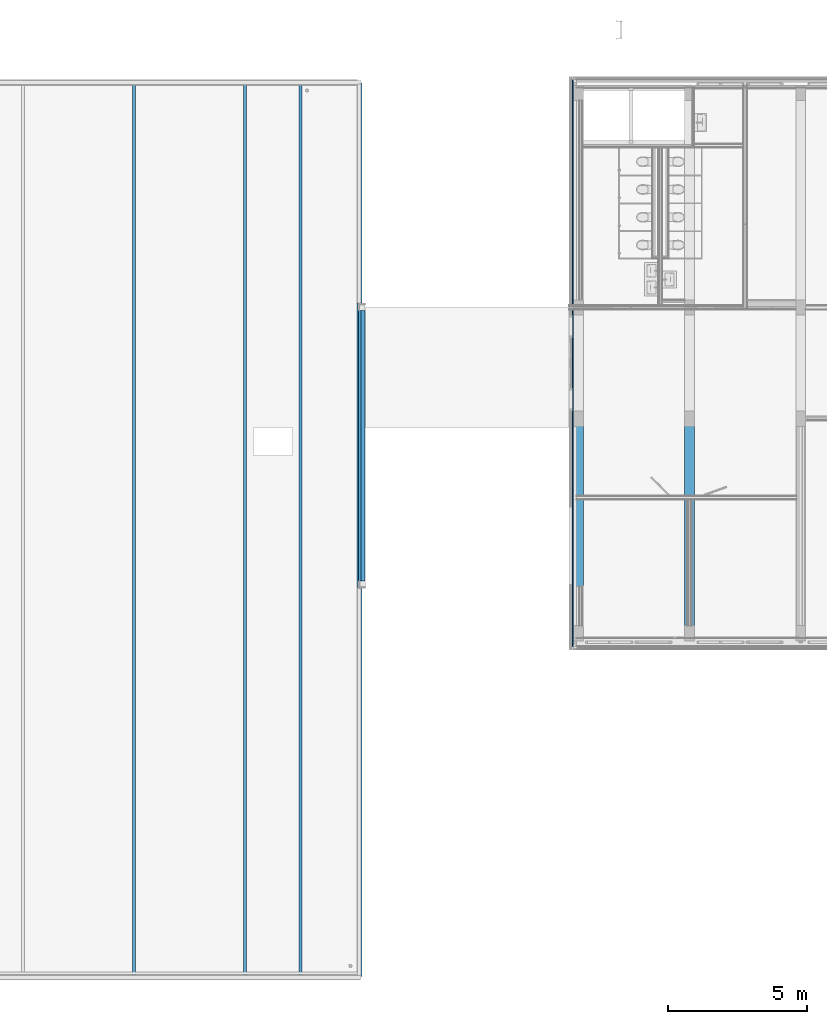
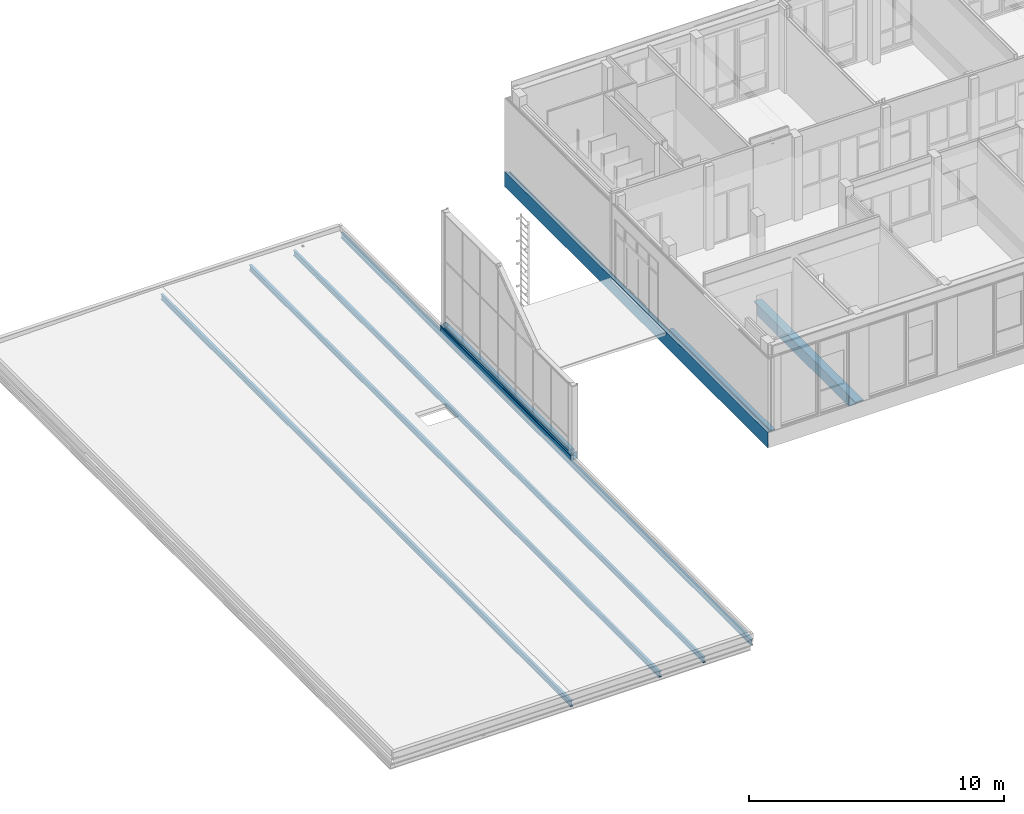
# One storey, part 7 of 54: 10 beams.
"""IFC2X3 building model written with IfcOpenShell, lengths in millimetres."""

from ifc_helpers import new_model, entity, si_unit, converted_unit, derived_unit, money_unit, direction, frame, origin_with_axes, place, context, subcontext, project, spatial, faceted_brep, material, type_object, element, save


model = new_model("IFC2X3")

# Units and contexts
model_context = context("Model", 3, precision=0.01, world=origin_with_axes(), true_north=direction((0.0, 1.0)))
body_context = subcontext(model_context, "Body", "Model", "MODEL_VIEW")
ifc_project = project(units=[si_unit("LENGTHUNIT", "METRE", prefix="MILLI"), si_unit("AREAUNIT", "SQUARE_METRE"), si_unit("VOLUMEUNIT", "CUBIC_METRE"), converted_unit("PLANEANGLEUNIT", "DEGREE", entity("IfcPlaneAngleMeasure", 0.0174532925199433), si_unit("PLANEANGLEUNIT", "RADIAN"), dimensions=[0, 0, 0, 0, 0, 0, 0]), money_unit("EUR"), converted_unit("TIMEUNIT", "Year", entity("IfcTimeMeasure", 31557600.0), si_unit("TIMEUNIT", "SECOND"), dimensions=[0, 0, 1, 0, 0, 0, 0]), si_unit("MASSUNIT", "GRAM", prefix="KILO"), si_unit("THERMODYNAMICTEMPERATUREUNIT", "DEGREE_CELSIUS"), si_unit("LUMINOUSINTENSITYUNIT", "LUMEN"), si_unit("ENERGYUNIT", "JOULE", prefix="MEGA"), derived_unit("THERMALCONDUCTANCEUNIT", [(si_unit("POWERUNIT", "WATT"), 1), (si_unit("LENGTHUNIT", "METRE"), -1), (si_unit("THERMODYNAMICTEMPERATUREUNIT", "KELVIN"), -1)]), derived_unit("SPECIFICHEATCAPACITYUNIT", [(si_unit("ENERGYUNIT", "JOULE"), 1), (si_unit("MASSUNIT", "GRAM", prefix="KILO"), -1), (si_unit("THERMODYNAMICTEMPERATUREUNIT", "KELVIN"), -1)]), derived_unit("MASSDENSITYUNIT", [(si_unit("MASSUNIT", "GRAM", prefix="KILO"), 1), (si_unit("VOLUMEUNIT", "CUBIC_METRE"), -1)])], contexts=[model_context])

# Site, building, storey
site_placement = place(None, origin_with_axes())
site = spatial("IfcSite", under=ifc_project, at=site_placement, Name="<site naam>", CompositionType="ELEMENT")
building_placement = place(site_placement, origin_with_axes())
building = spatial("IfcBuilding", under=site, at=building_placement, Name="<Naam gebouw>", CompositionType="ELEMENT")
storey_placement = place(building_placement, frame((0.0, 0.0, 8500.0), z_axis=(0.0, 0.0, 1.0), x_axis=(1.0, 0.0, 0.0)))
storey = spatial("IfcBuildingStorey", under=building, at=storey_placement, Name="02 2e verdieping", CompositionType="ELEMENT", Elevation=8500.0)

# Beams
ifc_material_1 = material(Name="beton_gewapend C")
beam_type_1 = type_object("IfcBeamType", Name="beton_gewapend C 350 x 650", PredefinedType="BEAM")
beam_1_placement = place(storey_placement, frame((16000.00000000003, 7994.453850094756, -30.00000000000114), z_axis=(0.0, 0.0, 1.0), x_axis=(-1.0, 0.0, 0.0)))
element("IfcBeam", 1, at=beam_1_placement, inside=storey, type_object=beam_type_1, material=ifc_material_1, Name="28_Balk_beton_gewapend", ObjectType="BEAM", context=body_context, shape_type="Brep", body=[
    faceted_brep([(-174.9999999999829, 7994.453850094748, -169.9999999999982), (-174.9999999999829, 7444.453850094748, -169.9999999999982), (-174.9999999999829, 7444.453850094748, -650.0000000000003), (-174.9999999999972, 269.4538500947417, -650.0000000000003), (-174.9999999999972, 269.4538500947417, -169.9999999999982), (-174.9999999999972, 0.0, -169.9999999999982), (-175.0000000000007, 0.0, -119.9999999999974), (-175.0000000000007, 7994.453850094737, -119.9999999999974), (175.0000000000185, 7444.453850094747, -169.9999999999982), (175.0000000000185, 7994.453850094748, -169.9999999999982), (175.0000000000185, 7444.453850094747, -650.0000000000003), (175.0000000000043, 269.4538500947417, -650.0000000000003), (175.0000000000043, 269.4538500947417, -169.9999999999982), (175.0000000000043, 0.0, -169.9999999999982), (175.0000000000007, 0.0, -119.9999999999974), (174.9999999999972, 7994.453850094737, -119.9999999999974)], [[[0, 1, 2, 3, 4, 5, 6, 7]], [[8, 1, 0, 9]], [[10, 2, 1, 8]], [[3, 2, 10, 11]], [[12, 4, 3, 11]], [[12, 13, 5, 4]], [[6, 5, 13, 14]], [[14, 15, 7, 6]], [[15, 9, 0, 7]], [[10, 8, 9, 15, 14, 13, 12, 11]]]),
])
beam_2_placement = place(storey_placement, frame((12000.00000000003, 7994.453850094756, -30.00000000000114), z_axis=(0.0, 0.0, 1.0), x_axis=(-1.0, 0.0, 0.0)))
element("IfcBeam", 2, at=beam_2_placement, inside=storey, type_object=beam_type_1, material=ifc_material_1, Name="28_Balk_beton_gewapend", ObjectType="BEAM", context=body_context, shape_type="Brep", body=[
    faceted_brep([(-174.9999520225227, 7994.453896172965, -169.9999999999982), (-174.9999520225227, 7444.453896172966, -169.9999999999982), (-174.9999520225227, 7444.453896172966, -650.0000000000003), (-174.9999520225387, 269.4538961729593, -650.0000000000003), (-174.9999520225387, 269.4538961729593, -169.9999999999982), (-174.9999520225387, 0.0, -169.9999999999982), (-175.0000000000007, 0.0, -119.9999999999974), (-175.0000000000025, 7994.453850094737, -119.9999999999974), (175.0000479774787, 7444.453896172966, -169.9999999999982), (175.0000479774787, 7994.453896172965, -169.9999999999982), (175.0000479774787, 7444.453896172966, -650.0000000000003), (175.0000479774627, 269.4538961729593, -650.0000000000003), (175.0000479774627, 269.4538961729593, -169.9999999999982), (175.0000479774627, 0.0, -169.9999999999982), (175.0000000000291, 0.0, -119.9999999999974), (175.0000000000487, 7994.453850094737, -119.9999999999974)], [[[0, 1, 2, 3, 4, 5, 6, 7]], [[8, 1, 0, 9]], [[10, 2, 1, 8]], [[3, 2, 10, 11]], [[12, 4, 3, 11]], [[12, 13, 5, 4]], [[6, 5, 13, 14]], [[14, 15, 7, 6]], [[15, 9, 0, 7]], [[10, 8, 9, 15, 14, 13, 12, 11]]]),
])
ifc_material_2 = material(Name="beton_gewapend_prefab")
beam_type_2 = type_object("IfcBeamType", Name="Betonbanden 160 x 760", PredefinedType="BEAM")
beam_3_placement = place(storey_placement, frame((11725.00000000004, 20265.00000000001, 70.00000842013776), z_axis=(0.0, 0.0, 1.0), x_axis=(-1.0, 0.0, 0.0)))
element("IfcBeam", 3, at=beam_3_placement, inside=storey, type_object=beam_type_2, material=ifc_material_2, Name="41_Balk_Betonbanden", ObjectType="BEAM", context=body_context, shape_type="Brep", body=[
    faceted_brep([(59.99999757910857, -59.99999757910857, -30.00000230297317), (59.99999757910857, -59.99999757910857, -759.9999375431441), (59.99999757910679, 20589.99999757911, -759.9999375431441), (59.99999757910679, 20589.99999757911, -30.00000230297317), (59.99999757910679, 12585.00000000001, -100.0000084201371), (59.99999757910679, 12585.00000000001, -220.0000084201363), (59.99999757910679, 8265.000000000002, -220.0000084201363), (59.99999757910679, 8265.000000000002, -100.0000084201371), (-60.00000030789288, 60.00000030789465, -30.00000230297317), (-60.00000030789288, 60.00000030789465, 0.0), (-100.0000071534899, 100.0000071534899, 0.0), (-100.0000071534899, 100.0000071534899, -100.0000001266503), (4.298053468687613e-06, -4.298051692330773e-06, -100.0000001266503), (4.298053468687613e-06, -4.298051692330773e-06, -690.0000385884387), (-29.9999980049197, 29.99999800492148, -690.0000385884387), (-29.9999980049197, 29.99999800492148, -660.0000280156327), (-60.00000030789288, 60.00000030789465, -660.0000280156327), (-60.00000030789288, 60.00000030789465, -759.9999375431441), (4.298053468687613e-06, -4.298051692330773e-06, -759.9999375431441), (4.298053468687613e-06, -4.298051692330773e-06, -730.0000145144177), (29.99999527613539, -29.99999527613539, -730.0000145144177), (29.99999527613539, -29.99999527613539, -759.9999375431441), (29.99999527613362, 20559.99999527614, -759.9999375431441), (-100.0000071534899, 20429.99999284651, 0.0), (-60.00000030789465, 20469.99999969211, 0.0), (-60.00000030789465, 20469.99999969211, -30.00000230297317), (29.99999527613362, 20559.99999527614, -730.0000145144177), (4.298053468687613e-06, 20530.00000429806, -730.0000145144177), (4.298053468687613e-06, 20530.00000429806, -759.9999375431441), (-60.00000030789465, 20469.99999969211, -759.9999375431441), (-60.00000030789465, 20469.99999969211, -660.0000280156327), (-29.99999800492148, 20500.00000199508, -660.0000280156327), (-29.99999800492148, 20500.00000199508, -690.0000385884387), (4.298053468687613e-06, 20530.00000429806, -690.0000385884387), (4.298053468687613e-06, 20530.00000429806, -100.0000001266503), (-100.0000071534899, 20429.99999284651, -100.0000001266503), (4.298053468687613e-06, 12585.00000000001, -100.0000084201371), (4.298053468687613e-06, 12585.00000000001, -220.0000084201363), (4.298053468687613e-06, 8265.000000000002, -220.0000084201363), (4.298051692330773e-06, 8265.000000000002, -100.0000084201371)], [[[0, 1, 2, 3], [4, 5, 6, 7]], [[1, 0, 8, 9, 10, 11, 12, 13, 14, 15, 16, 17, 18, 19, 20, 21]], [[1, 21, 22, 2]], [[23, 24, 25, 3, 2, 22, 26, 27, 28, 29, 30, 31, 32, 33, 34, 35]], [[8, 0, 3, 25]], [[4, 36, 37, 5]], [[5, 37, 38, 6]], [[6, 38, 39, 7]], [[7, 39, 36, 4]], [[9, 8, 25, 24]], [[10, 9, 24, 23]], [[11, 10, 23, 35]], [[34, 36, 39, 12, 11, 35]], [[38, 37, 36, 34, 33, 13, 12, 39]], [[14, 13, 33, 32]], [[15, 14, 32, 31]], [[16, 15, 31, 30]], [[17, 16, 30, 29]], [[18, 17, 29, 28]], [[19, 18, 28, 27]], [[20, 19, 27, 26]], [[21, 20, 26, 22]]]),
])
ifc_material_3 = material(Name="staal C")
beam_type_3 = type_object("IfcBeamType", Name="Profiel IPN algemeen 113 x 260", PredefinedType="BEAM")
beam_4_placement = place(storey_placement, frame((-3999.999999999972, -12082.49008809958, -179.9999999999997), z_axis=(0.0, 0.0, 1.0), x_axis=(1.0, 0.0, 0.0)))
element("IfcBeam", 4, at=beam_4_placement, inside=storey, type_object=beam_type_3, material=ifc_material_3, Name="28_Balk_Profiel", ObjectType="BEAM", context=body_context, shape_type="Brep", body=[
    faceted_brep([(-56.50019946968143, 0.0, -14.09999999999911), (-56.50023905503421, 0.0, 0.0), (-56.50023905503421, 32164.99008809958, 0.0), (-56.50019946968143, 32164.99008809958, -14.09999999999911), (56.50019946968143, 0.0, -14.09999999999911), (56.50023905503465, 0.0, 0.0), (-4.699999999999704, 0.0, -14.09999999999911), (-4.699999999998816, 0.0, -245.9002124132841), (-56.50019946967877, 0.0, -245.9002124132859), (-56.50023905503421, 0.0, -260.0002447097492), (56.50023905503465, 0.0, -260.0002447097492), (56.5001994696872, 0.0, -245.9002124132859), (4.69999999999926, 0.0, -245.9002124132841), (4.69999999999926, 0.0, -14.09999999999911), (56.50023905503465, 32164.99008809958, 0.0), (-4.699999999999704, 32164.99008809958, -14.09999999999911), (56.50019946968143, 32164.99008809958, -14.09999999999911), (4.69999999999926, 32164.99008809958, -14.09999999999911), (4.69999999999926, 32164.99008809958, -245.9002124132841), (56.5001994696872, 32164.99008809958, -245.9002124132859), (56.50023905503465, 32164.99008809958, -260.0002447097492), (-56.50023905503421, 32164.99008809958, -260.0002447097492), (-56.50019946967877, 32164.99008809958, -245.9002124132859), (-4.699999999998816, 32164.99008809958, -245.9002124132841)], [[[0, 1, 2, 3]], [[4, 5, 1, 0, 6, 7, 8, 9, 10, 11, 12, 13]], [[1, 5, 14, 2]], [[15, 3, 2, 14, 16, 17, 18, 19, 20, 21, 22, 23]], [[6, 0, 3, 15]], [[5, 4, 16, 14]], [[7, 6, 15, 23]], [[8, 7, 23, 22]], [[9, 8, 22, 21]], [[10, 9, 21, 20]], [[11, 10, 20, 19]], [[12, 11, 19, 18]], [[13, 12, 18, 17]], [[4, 13, 17, 16]]]),
])
beam_5_placement = place(storey_placement, frame((0.0001965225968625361, -12082.49008809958, -179.9999999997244), z_axis=(0.0, 0.0, 1.0), x_axis=(1.0, 0.0, 0.0)))
element("IfcBeam", 5, at=beam_5_placement, inside=storey, type_object=beam_type_3, material=ifc_material_3, Name="28_Balk_Profiel", ObjectType="BEAM", context=body_context, shape_type="Brep", body=[
    faceted_brep([(-56.50019946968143, 0.0, -14.09999999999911), (-56.50023905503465, 0.0, 0.0), (-56.50023905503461, 32164.99008809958, 0.0), (-56.50019946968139, 32164.99008809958, -14.09999999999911), (56.50019946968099, 0.0, -14.09999999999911), (56.50023905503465, 0.0, 0.0), (-4.69999999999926, 0.0, -14.09999999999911), (-4.69999999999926, 0.0, -245.9002124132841), (-56.50019946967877, 0.0, -245.9002124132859), (-56.50023905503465, 0.0, -260.0002447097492), (56.50023905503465, 0.0, -260.0002447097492), (56.5001994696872, 0.0, -245.9002124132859), (4.69999999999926, 0.0, -245.9002124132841), (4.69999999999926, 0.0, -14.09999999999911), (56.50023905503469, 32164.99008809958, 0.0), (-4.700000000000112, 32164.99008809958, -14.09999999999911), (56.50019946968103, 32164.99008809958, -14.09999999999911), (4.699999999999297, 32164.99008809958, -14.09999999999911), (4.699999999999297, 32164.99008809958, -245.9002124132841), (56.50019946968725, 32164.99008809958, -245.9002124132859), (56.50023905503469, 32164.99008809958, -260.0002447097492), (-56.50023905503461, 32164.99008809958, -260.0002447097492), (-56.50019946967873, 32164.99008809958, -245.9002124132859), (-4.699999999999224, 32164.99008809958, -245.9002124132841)], [[[0, 1, 2, 3]], [[4, 5, 1, 0, 6, 7, 8, 9, 10, 11, 12, 13]], [[1, 5, 14, 2]], [[15, 3, 2, 14, 16, 17, 18, 19, 20, 21, 22, 23]], [[6, 0, 3, 15]], [[5, 4, 16, 14]], [[7, 6, 15, 23]], [[8, 7, 23, 22]], [[9, 8, 22, 21]], [[10, 9, 21, 20]], [[11, 10, 20, 19]], [[12, 11, 19, 18]], [[13, 12, 18, 17]], [[4, 13, 17, 16]]]),
])
beam_6_placement = place(storey_placement, frame((2000.000196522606, -12082.49008809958, -179.9999999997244), z_axis=(0.0, 0.0, 1.0), x_axis=(1.0, 0.0, 0.0)))
element("IfcBeam", 6, at=beam_6_placement, inside=storey, type_object=beam_type_3, material=ifc_material_3, Name="28_Balk_Profiel", ObjectType="BEAM", context=body_context, shape_type="Brep", body=[
    faceted_brep([(-56.50019946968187, 0.0, -14.09999999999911), (-56.50023905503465, 0.0, 0.0), (-56.50023905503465, 32164.99008809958, 0.0), (-56.50019946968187, 32164.99008809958, -14.09999999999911), (56.50019946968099, 0.0, -14.09999999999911), (56.50023905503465, 0.0, 0.0), (-4.69999999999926, 0.0, -14.09999999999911), (-4.69999999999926, 0.0, -245.9002124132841), (-56.50019946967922, 0.0, -245.9002124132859), (-56.50023905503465, 0.0, -260.0002447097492), (56.50023905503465, 0.0, -260.0002447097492), (56.5001994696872, 0.0, -245.9002124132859), (4.69999999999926, 0.0, -245.9002124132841), (4.69999999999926, 0.0, -14.09999999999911), (56.50023905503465, 32164.99008809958, 0.0), (-4.69999999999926, 32164.99008809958, -14.09999999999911), (56.50019946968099, 32164.99008809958, -14.09999999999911), (4.69999999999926, 32164.99008809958, -14.09999999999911), (4.69999999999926, 32164.99008809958, -245.9002124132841), (56.5001994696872, 32164.99008809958, -245.9002124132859), (56.50023905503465, 32164.99008809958, -260.0002447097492), (-56.50023905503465, 32164.99008809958, -260.0002447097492), (-56.50019946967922, 32164.99008809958, -245.9002124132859), (-4.69999999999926, 32164.99008809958, -245.9002124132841)], [[[0, 1, 2, 3]], [[4, 5, 1, 0, 6, 7, 8, 9, 10, 11, 12, 13]], [[1, 5, 14, 2]], [[15, 3, 2, 14, 16, 17, 18, 19, 20, 21, 22, 23]], [[6, 0, 3, 15]], [[5, 4, 16, 14]], [[7, 6, 15, 23]], [[8, 7, 23, 22]], [[9, 8, 22, 21]], [[10, 9, 21, 20]], [[11, 10, 20, 19]], [[12, 11, 19, 18]], [[13, 12, 18, 17]], [[4, 13, 17, 16]]]),
])
beam_7_placement = place(storey_placement, frame((4145.000084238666, -12082.49008809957, -79.99999923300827), z_axis=(0.0, 0.0, 1.0), x_axis=(1.0, 2.618954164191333e-09, 0.0)))
element("IfcBeam", 7, at=beam_7_placement, inside=storey, type_object=beam_type_3, material=ifc_material_3, Name="28_Balk_Profiel", ObjectType="BEAM", context=body_context, shape_type="Brep", body=[
    faceted_brep([(-56.50023905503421, 0.0, 0.0), (-56.50023905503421, 32164.99008885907, 0.0), (-56.50019946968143, 32164.99008885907, -14.09999999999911), (-56.50019946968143, 0.0, -14.09999999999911), (56.50023905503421, 0.0, 0.0), (56.50023905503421, 32164.99008885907, 0.0), (56.50019946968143, 32164.99008885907, -14.09999999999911), (4.699999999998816, 32164.99008885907, -14.09999999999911), (4.699999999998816, 32164.99008885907, -245.9002124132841), (56.50019946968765, 32164.99008885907, -245.9002124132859), (56.50023905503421, 32164.99008885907, -260.0002447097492), (-56.50023905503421, 32164.99008885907, -260.0002447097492), (-56.50019946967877, 32164.99008885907, -245.9002124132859), (-4.699999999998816, 32164.99008885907, -245.9002124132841), (-4.699999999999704, 32164.99008885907, -14.09999999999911), (-4.699999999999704, 0.0, -14.09999999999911), (-4.699999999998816, 0.0, -245.9002124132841), (-56.50019946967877, 0.0, -245.9002124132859), (-56.50023905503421, 0.0, -260.0002447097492), (56.50023905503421, 0.0, -260.0002447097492), (56.50019946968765, 0.0, -245.9002124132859), (4.699999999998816, 0.0, -245.9002124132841), (4.699999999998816, 0.0, -14.09999999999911), (56.50019946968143, 0.0, -14.09999999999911)], [[[0, 1, 2, 3]], [[4, 5, 1, 0]], [[2, 1, 5, 6, 7, 8, 9, 10, 11, 12, 13, 14]], [[3, 2, 14, 15]], [[4, 0, 3, 15, 16, 17, 18, 19, 20, 21, 22, 23]], [[23, 6, 5, 4]], [[22, 7, 6, 23]], [[21, 8, 7, 22]], [[20, 9, 8, 21]], [[19, 10, 9, 20]], [[18, 11, 10, 19]], [[17, 12, 11, 18]], [[16, 13, 12, 17]], [[15, 14, 13, 16]]]),
])
ifc_material_4 = material(Name="ALG - BUITENAFWERKING")
beam_type_4 = type_object("IfcBeamType", Name="ALG - BUITENAFWERKING 120 x 340", PredefinedType="BEAM")
beam_8_placement = place(storey_placement, frame((4165.000000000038, 1930.019464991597, -70.00000000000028), z_axis=(0.0, 0.0, 1.0), x_axis=(1.0, 0.0, 0.0)))
element("IfcBeam", 8, at=beam_8_placement, inside=storey, type_object=beam_type_4, material=ifc_material_4, Name="47_Balk_ALG", ObjectType="BEAM", context=body_context, shape_type="Brep", body=[
    faceted_brep([(-92.52226088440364, 0.0, 339.9986434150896), (-72.97535686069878, 0.0, 339.9986434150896), (-72.97535686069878, 218.0030739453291, 339.9986434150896), (-92.52225523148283, 218.0030739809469, 339.9986434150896), (-92.52226012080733, 0.0, 70.00000000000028), (-72.97535686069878, 0.0, 70.00000000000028), (-72.97535686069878, 218.0030739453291, 70.00000000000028), (-92.52225523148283, 218.0030739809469, 70.00000000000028)], [[[0, 1, 2, 3]], [[4, 5, 1, 0]], [[5, 6, 2, 1]], [[3, 2, 6, 7]], [[4, 0, 3, 7]], [[7, 6, 5, 4]]]),
    faceted_brep([(-73.94892267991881, 237.4680587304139, 339.9986434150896), (-70.97535438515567, 237.4680594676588, 339.9986434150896), (-70.97535438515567, 0.0, 339.9986434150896), (0.0, 0.0, 339.9986434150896), (0.0, 15.95091952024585, 339.9986434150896), (-41.47534975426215, 15.95091952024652, 339.9986434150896), (-41.47534975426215, 224.0029512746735, 339.9986434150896), (-40.97534781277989, 224.0029500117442, 339.9986434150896), (-40.97534781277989, 237.4680594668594, 339.9986434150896), (-38.9753466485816, 237.4680594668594, 339.9986434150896), (-38.9753466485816, 224.0029500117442, 339.9986434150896), (0.0, 224.0029512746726, 339.9986434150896), (0.0, 9970.959288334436, 339.9986434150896), (-44.52225625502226, 9970.959288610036, 339.9986434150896), (-44.52225625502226, 9957.49417915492, 339.9986434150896), (-46.52225741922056, 9957.49417915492, 339.9986434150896), (-46.52225741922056, 9970.959288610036, 339.9986434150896), (-47.02225936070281, 9970.959287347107, 339.9986434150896), (-47.02225936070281, 10179.01131910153, 339.9986434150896), (0.0, 10179.01132008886, 339.9986434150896), (0.0, 10207.46223926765, 339.9986434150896), (-76.52226399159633, 10207.46223926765, 339.9986434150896), (-76.52226399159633, 9957.49417915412, 339.9986434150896), (-79.49583228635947, 9957.494179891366, 339.9986434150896), (-79.49583228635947, 9975.959287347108, 339.9986434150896), (-99.02225936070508, 9975.959287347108, 339.9986434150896), (-99.02225936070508, 10229.94620800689, 339.9986434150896), (-120.000000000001, 10229.94620800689, 339.9986434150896), (-120.0000000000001, 0.0, 339.9986434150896), (-93.47534975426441, 0.0, 339.9986434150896), (-93.47534975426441, 219.0029512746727, 339.9986434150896), (-73.94892267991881, 219.0029512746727, 339.9986434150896), (-73.94892267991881, 237.4680587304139, 70.00000000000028), (-70.97535438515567, 237.4680594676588, 70.00000000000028), (-70.97535438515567, 0.0, 70.00000000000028), (0.0, 0.0, 70.00000000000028), (0.0, 15.95091952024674, 70.00000000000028), (-41.47534975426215, 15.95091952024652, 70.00000000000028), (-41.47534975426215, 224.0029512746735, 70.00000000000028), (-40.97534781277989, 224.0029500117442, 70.00000000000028), (-40.97534781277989, 237.4680594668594, 70.00000000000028), (-38.9753466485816, 237.4680594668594, 70.00000000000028), (-38.9753466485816, 224.0029500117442, 70.00000000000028), (0.0, 224.0029502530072, 70.00000000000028), (0.0, 6345.14316163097, 70.00000000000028), (0.0, 6345.14316163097, 0.0), (0.0, 10229.94620800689, 0.0), (0.0, 10229.94620800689, 70.00000000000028), (0.0, 10228.96223339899, 70.00000000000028), (0.0, 10228.96223339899, 339.9986434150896), (0.0, 10209.4622376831, 339.9986434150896), (0.0, 10209.4622376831, 70.00000000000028), (0.0, 10207.46223926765, 70.00000000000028), (0.0, 10179.01131910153, 70.00000000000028), (0.0, 9970.959288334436, 70.00000000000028), (-44.52225625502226, 9970.959288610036, 70.00000000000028), (-44.52225625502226, 9957.49417915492, 70.00000000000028), (-46.52225741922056, 9957.49417915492, 70.00000000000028), (-46.52225741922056, 9970.959288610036, 70.00000000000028), (-47.02225936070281, 9970.959287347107, 70.00000000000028), (-47.02225936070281, 10179.01131910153, 70.00000000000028), (-76.52226399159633, 10207.46223926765, 70.00000000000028), (-76.52226399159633, 9957.49417915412, 70.00000000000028), (-79.49583228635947, 9957.494179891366, 70.00000000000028), (-79.49583228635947, 9975.959287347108, 70.00000000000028), (-99.02225936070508, 9975.959287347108, 70.00000000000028), (-99.02225936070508, 10229.94620800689, 70.00000000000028), (-120.000000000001, 10229.94620800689, 0.0), (-120.0000000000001, 6345.14316163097, 0.0), (-120.0000000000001, 6345.14316163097, 70.00000000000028), (-120.0000000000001, 0.0, 70.00000000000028), (-93.47534975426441, 0.0, 70.00000000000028), (-93.47534975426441, 219.0029512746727, 70.00000000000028), (-73.94892267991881, 219.0029512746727, 70.00000000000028), (-78.52226646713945, 10209.4622376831, 70.00000000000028), (-78.52226646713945, 9976.959164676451, 70.00000000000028), (-98.0691648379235, 9976.959164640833, 70.00000000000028), (-98.06917251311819, 10229.00914778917, 70.00000000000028), (-98.02225812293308, 10228.96223339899, 70.00000000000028), (-98.02225812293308, 10228.96223339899, 339.9986434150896), (-98.0691648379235, 9976.959164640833, 339.9986434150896), (-78.52226646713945, 9976.959164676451, 339.9986434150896), (-78.52226646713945, 10209.4622376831, 339.9986434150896), (-98.06917251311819, 10229.00914778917, 339.9986434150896)], [[[0, 1, 2, 3, 4, 5, 6, 7, 8, 9, 10, 11, 12, 13, 14, 15, 16, 17, 18, 19, 20, 21, 22, 23, 24, 25, 26, 27, 28, 29, 30, 31]], [[32, 33, 1, 0]], [[34, 2, 1, 33]], [[3, 2, 34, 35]], [[35, 36, 4, 3]], [[37, 5, 4, 36]], [[38, 6, 5, 37]], [[38, 39, 7, 6]], [[40, 8, 7, 39]], [[41, 9, 8, 40]], [[42, 10, 9, 41]], [[11, 10, 42, 43]], [[12, 11, 43, 44, 45, 46, 47, 48, 49, 50, 51, 52, 20, 19, 53, 54]], [[54, 55, 13, 12]], [[56, 14, 13, 55]], [[57, 15, 14, 56]], [[57, 58, 16, 15]], [[17, 16, 58, 59]], [[60, 18, 17, 59]], [[60, 53, 19, 18]], [[61, 21, 20, 52]], [[62, 22, 21, 61]], [[23, 22, 62, 63]], [[64, 24, 23, 63]], [[65, 25, 24, 64]], [[65, 66, 26, 25]], [[66, 47, 46, 67, 27, 26]], [[68, 69, 70, 28, 27, 67]], [[70, 71, 29, 28]], [[72, 30, 29, 71]], [[73, 31, 30, 72]], [[32, 0, 31, 73]], [[34, 33, 32, 73, 72, 71, 70, 69, 44, 43, 42, 41, 40, 39, 38, 37, 36, 35]], [[69, 68, 45, 44]], [[67, 46, 45, 68]], [[63, 62, 61, 52, 51, 74, 75, 76, 77, 78, 48, 47, 66, 65, 64]], [[78, 79, 49, 48]], [[80, 81, 82, 50, 49, 79, 83]], [[74, 51, 50, 82]], [[59, 58, 57, 56, 55, 54, 53, 60]], [[74, 82, 81, 75]], [[76, 75, 81, 80]], [[80, 83, 77, 76]], [[77, 83, 79, 78]]]),
])
beam_type_5 = type_object("IfcBeamType", Name="ALG - BUITENAFWERKING 159 x 360", PredefinedType="BEAM")
beam_9_placement = place(storey_placement, frame((4165.999520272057, 1930.019464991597, 5.680362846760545e-07), z_axis=(0.0, 0.0, 1.0), x_axis=(1.0, 0.0, 0.0)))
element("IfcBeam", 9, at=beam_9_placement, inside=storey, type_object=beam_type_5, material=ifc_material_4, Name="47_Balk_ALG", ObjectType="BEAM", context=body_context, shape_type="Brep", body=[
    faceted_brep([(158.9999999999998, 0.0, 0.0), (158.9999999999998, 15.95091952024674, -5.680362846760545e-07), (158.9999999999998, 15.95091952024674, 360.0000006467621), (158.9999999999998, 0.0, 360.0000006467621), (0.0, 0.0, 0.0), (0.0, 15.95091952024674, -5.680362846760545e-07), (0.0, 15.95091952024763, 360.0000006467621), (0.0, 0.0, 360.0000006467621)], [[[0, 1, 2, 3]], [[4, 5, 1, 0]], [[5, 6, 2, 1]], [[3, 2, 6, 7]], [[7, 4, 0, 3]], [[7, 6, 5, 4]]]),
    faceted_brep([(158.9999999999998, 10229.94620800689, 360.0000006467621), (153.4537269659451, 10229.94620800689, 360.0000006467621), (153.4537269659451, 10210.48890156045, 360.0000006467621), (158.9999999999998, 10210.48890156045, 360.0000006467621), (158.9999999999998, 10229.94620800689, 0.0), (153.4537269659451, 10229.94620800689, -5.680362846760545e-07), (153.4537269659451, 10210.48890156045, -5.680362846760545e-07), (158.9999999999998, 10210.48890156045, -5.680362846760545e-07)], [[[0, 1, 2, 3]], [[4, 5, 1, 0]], [[6, 2, 1, 5]], [[6, 7, 3, 2]], [[0, 3, 7, 4]], [[7, 6, 5, 4]]]),
    faceted_brep([(0.0, 10228.96223339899, 360.0000006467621), (0.0, 10209.4622376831, 360.0000006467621), (152.4538515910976, 10209.4622376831, 360.0000006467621), (152.4538515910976, 10228.96223339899, 360.0000006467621), (0.0, 10228.96223339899, -5.680362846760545e-07), (0.0, 10209.4622376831, -5.680362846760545e-07), (152.4538515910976, 10209.4622376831, -5.680362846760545e-07), (152.4538515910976, 10228.96223339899, -5.680362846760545e-07)], [[[0, 1, 2, 3]], [[4, 5, 1, 0]], [[5, 6, 2, 1]], [[3, 2, 6, 7]], [[4, 0, 3, 7]], [[7, 6, 5, 4]]]),
    faceted_brep([(158.9999999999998, 10177.462236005, -5.680362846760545e-07), (158.9999999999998, 10207.46223926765, -5.680362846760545e-07), (158.9999999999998, 10207.46223926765, 360.0000006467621), (158.9999999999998, 10177.462236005, 360.0000006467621), (0.0, 10179.01131910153, -5.680362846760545e-07), (0.0, 10207.46223926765, -5.680362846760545e-07), (158.5006362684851, 10177.462236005, -5.680362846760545e-07), (158.5006367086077, 10179.01131910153, -5.680362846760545e-07), (0.0, 10207.46223926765, 360.0000006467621), (0.0, 10179.01132008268, 360.0000006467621), (158.5006367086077, 10179.01131910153, 360.0000006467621), (158.5006362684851, 10177.462236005, 360.0000006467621)], [[[0, 1, 2, 3]], [[4, 5, 1, 0, 6, 7]], [[5, 8, 2, 1]], [[3, 2, 8, 9, 10, 11]], [[6, 0, 3, 11]], [[9, 8, 5, 4]], [[7, 6, 11, 10]], [[7, 10, 9, 4]]]),
    faceted_brep([(0.0, 9970.959288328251, 360.0000006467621), (0.0, 224.0029512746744, 360.0000006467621), (158.9999999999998, 224.002951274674, 360.0000006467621), (158.9999999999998, 10175.46224144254, 360.0000006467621), (158.5006362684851, 10175.46224144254, 360.0000006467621), (158.5006367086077, 9970.959287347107, 360.0000006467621), (0.0, 9970.95928832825, -5.680362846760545e-07), (0.0, 224.0029502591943, -5.680362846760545e-07), (158.9999999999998, 224.0029512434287, -5.680362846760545e-07), (159.0000000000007, 5749.980535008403, -5.680362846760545e-07), (159.0000000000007, 5749.980535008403, 2.999999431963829), (158.9999999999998, 10069.98053500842, 2.999999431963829), (158.9999999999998, 10069.98053500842, -5.680362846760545e-07), (158.9999999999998, 10175.46224144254, -5.680362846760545e-07), (158.5006362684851, 10175.46224144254, -5.680362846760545e-07), (158.5006364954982, 10069.98053500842, -5.680362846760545e-07), (158.5006364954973, 10069.98053500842, 2.999999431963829), (158.5006367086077, 9970.959287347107, 2.999999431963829), (104.0449478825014, 9970.959287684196, 2.999999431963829), (104.0449478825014, 9970.959287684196, -5.680362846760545e-07), (104.0449478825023, 5749.980535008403, -5.680362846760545e-07), (104.0449478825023, 5749.980535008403, 2.999999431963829)], [[[0, 1, 2, 3, 4, 5]], [[6, 7, 1, 0]], [[7, 8, 2, 1]], [[3, 2, 8, 9, 10, 11, 12, 13]], [[14, 4, 3, 13]], [[5, 4, 14, 15, 16, 17]], [[6, 0, 5, 17, 18, 19]], [[9, 8, 7, 6, 19, 20]], [[20, 21, 10, 9]], [[18, 17, 16, 11, 10, 21]], [[11, 16, 15, 12]], [[15, 14, 13, 12]], [[20, 19, 18, 21]]]),
])
ifc_material_5 = material(Name="aluminium")
beam_type_6 = type_object("IfcBeamType", Name="Aluminium waterslag vliesgevel 63 x 132", PredefinedType="BEAM")
beam_10_placement = place(storey_placement, frame((4066.000628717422, 1930.019464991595, 370.0006904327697), z_axis=(0.0, 0.0, 1.0), x_axis=(1.0, 0.0, 0.0)))
element("IfcBeam", 10, at=beam_10_placement, inside=storey, type_object=beam_type_6, material=ifc_material_5, Name="47_Balk_Aluminium", ObjectType="BEAM", context=body_context, shape_type="Brep", body=[
    faceted_brep([(16.54108604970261, 0.0, -78.10069224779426), (16.54108604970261, 218.0030739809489, -78.10069224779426), (16.54108604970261, 218.0030739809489, 15.99930892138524), (16.54108604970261, 0.0, 15.99930892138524), (6.477110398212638, 0.0, -78.10069224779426), (6.477116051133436, 218.0030739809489, -78.10069224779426), (14.54108500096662, 218.0030739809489, -76.12751518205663), (14.54108500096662, 218.0030739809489, 15.99930892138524), (6.477116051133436, 218.0030739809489, -76.12751518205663), (14.54108500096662, 0.0, 15.99930892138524), (14.54108500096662, 0.0, -76.12751518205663), (6.477110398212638, 0.0, -76.12751518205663)], [[[0, 1, 2, 3]], [[4, 5, 1, 0]], [[6, 7, 2, 1, 5, 8]], [[3, 2, 7, 9]], [[10, 11, 4, 0, 3, 9]], [[4, 11, 8, 5]], [[9, 7, 6, 10]], [[6, 8, 11, 10]]]),
    faceted_brep([(16.54108604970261, 9976.959164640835, -78.10069224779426), (16.54108604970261, 10228.96223339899, -78.10069224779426), (16.54108604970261, 10228.96223339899, 15.99930892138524), (16.54108604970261, 9976.959164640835, 15.99930892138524), (0.9301987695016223, 10229.00914778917, -78.10069224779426), (0.9771131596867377, 10228.96223339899, -78.10069224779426), (0.9302064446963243, 9976.959164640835, -78.10069224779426), (14.54108500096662, 10228.96223339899, -76.12751518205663), (14.54108500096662, 10228.96223339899, 15.99930892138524), (0.9771131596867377, 10228.96223339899, -76.12751518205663), (14.54108500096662, 9976.959164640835, 15.99930892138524), (14.54108500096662, 9976.959164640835, -76.12751518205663), (0.9302064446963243, 9976.959164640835, -76.12751518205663), (0.9301987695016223, 10229.00914778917, -76.12751518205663)], [[[0, 1, 2, 3]], [[4, 5, 1, 0, 6]], [[7, 8, 2, 1, 5, 9]], [[3, 2, 8, 10]], [[6, 0, 3, 10, 11, 12]], [[4, 13, 9, 5]], [[12, 13, 4, 6]], [[10, 8, 7, 11]], [[7, 9, 13, 12, 11]]]),
    faceted_brep([(14.54108500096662, 9975.959287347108, 15.99930892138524), (14.54108500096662, 219.0029512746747, 15.99930892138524), (16.54108604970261, 219.0029512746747, 15.99930892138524), (16.54108604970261, 9975.959287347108, 15.99930892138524), (14.54108500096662, 9975.959287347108, -76.12751518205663), (14.54108500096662, 219.0029512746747, -76.12751518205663), (5.524021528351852, 219.0029512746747, -78.10069224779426), (16.54108604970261, 219.0029512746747, -78.10069224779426), (5.524021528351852, 219.0029512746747, -76.12751518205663), (16.54108604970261, 9975.959287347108, -78.10069224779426), (-0.02288807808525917, 9975.959287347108, -78.10069224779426), (-0.02288807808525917, 9975.959287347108, -76.12751518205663), (5.524021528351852, 0.0, -76.12751518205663), (-0.02288807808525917, 10229.94620800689, -76.12751518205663), (-45.97710367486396, 10229.94620800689, -76.12751518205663), (-45.97710367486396, 0.0, -76.12751518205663), (5.524021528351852, 0.0, -78.10069224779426), (-43.97710524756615, 0.0, -78.10069224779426), (-43.97710524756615, 10229.94620800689, -78.10069224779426), (-0.02288807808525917, 10229.94620800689, -78.10069224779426), (-43.97710524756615, 10229.94620800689, -113.9553381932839), (-33.97710393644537, 10229.94620800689, -113.9553381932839), (-33.97710393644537, 10229.94620800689, -115.955339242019), (-45.97710367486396, 10229.94620800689, -115.955339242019), (-45.97710367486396, 0.0, -115.955339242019), (-33.97710393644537, 0.0, -115.955339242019), (-33.97710393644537, 0.0, -113.9553381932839), (-43.97710524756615, 0.0, -113.9553381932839)], [[[0, 1, 2, 3]], [[4, 5, 1, 0]], [[6, 7, 2, 1, 5, 8]], [[3, 2, 7, 9]], [[4, 0, 3, 9, 10, 11]], [[12, 8, 5, 4, 11, 13, 14, 15]], [[7, 6, 16, 17, 18, 19, 10, 9]], [[6, 8, 12, 16]], [[10, 19, 13, 11]], [[14, 13, 19, 18, 20, 21, 22, 23]], [[24, 15, 14, 23]], [[17, 16, 12, 15, 24, 25, 26, 27]], [[17, 27, 20, 18]], [[27, 26, 21, 20]], [[26, 25, 22, 21]], [[25, 24, 23, 22]]]),
])

save(model, "model.ifc")
